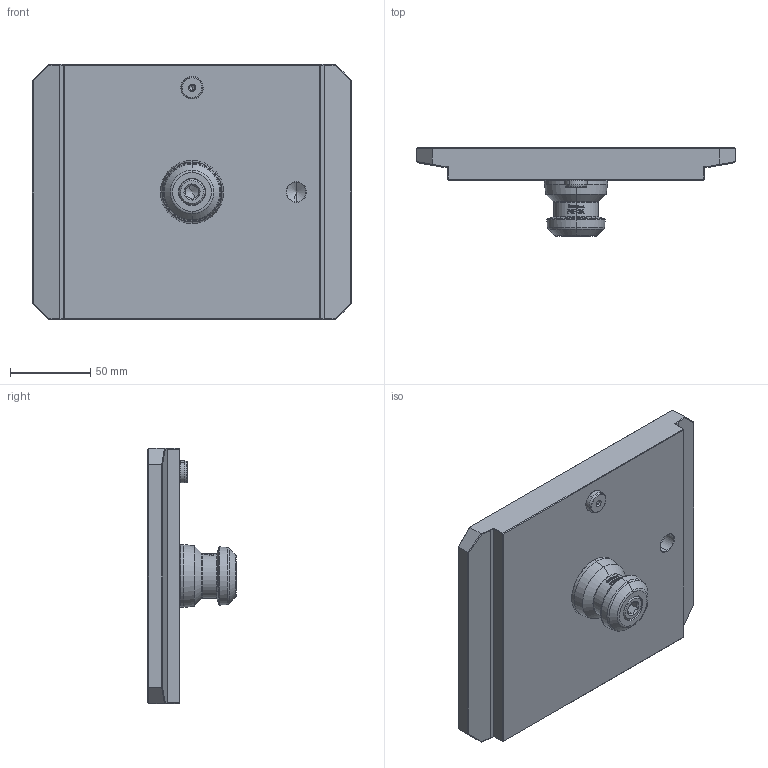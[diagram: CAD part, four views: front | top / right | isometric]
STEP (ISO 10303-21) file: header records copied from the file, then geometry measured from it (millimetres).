
FILE_DESCRIPTION (( 'STEP AP203' ), '1' );
FILE_NAME ('61P864238.STEP', '2024-04-26T07:19:27', ( '' ), ( '' ), 'SwSTEP 2.0', 'SolidWorks 2022', '' );
FILE_SCHEMA (( 'CONFIG_CONTROL_DESIGN' ));
Length unit declared in the file: millimetre
Products named in the file (5): 61P864238; 61P864212; 61P293306; 61P493325; 0030110045
Assembly tree (4 placements, depth 2):
  61P864238
    61P864212
    61P293306
    61P493325
    0030110045
Bounding box: 199 x 55 x 159 mm (x, y, z)
Volume: 602624.8 mm3; surface area: 87361.7 mm2
Topology: 4 solids, 4 shells, 342 faces, 1509 edges, 1210 vertices
Faces by surface type: plane 141, bspline 70, cone 58, cylinder 57, torus 16
Entity records: 19350 total; most frequent: CARTESIAN_POINT 8197, ORIENTED_EDGE 3002, DIRECTION 1512, EDGE_CURVE 1501, VERTEX_POINT 1210, VECTOR 522, LINE 522, AXIS2_PLACEMENT_3D 495
